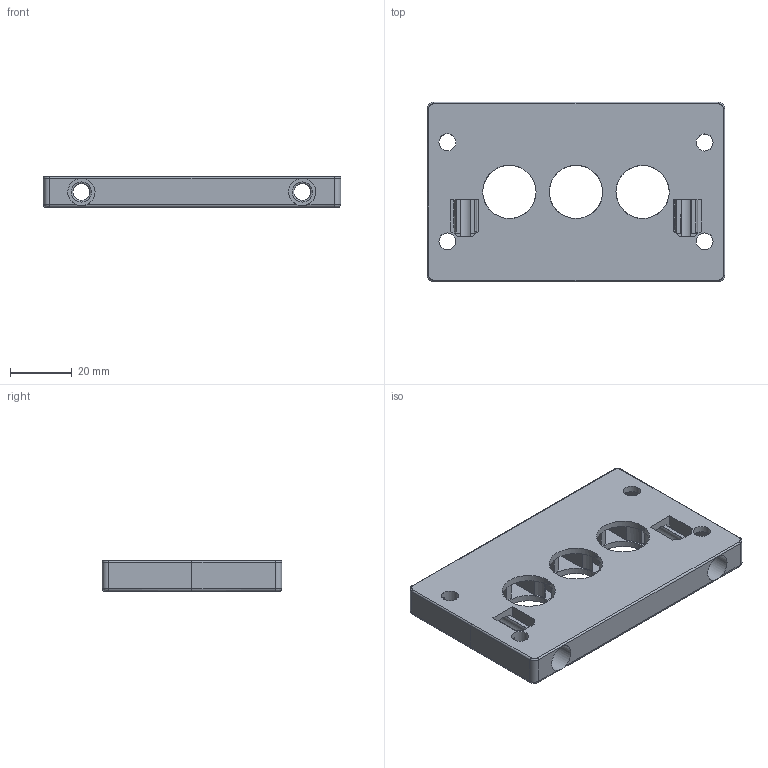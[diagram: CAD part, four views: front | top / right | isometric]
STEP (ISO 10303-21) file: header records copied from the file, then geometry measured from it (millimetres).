
FILE_DESCRIPTION (( 'STEP AP203' ), '1' );
FILE_NAME ('171011 KDL10-3.STEP', '2023-04-14T04:56:04', ( '' ), ( '' ), 'SwSTEP 2.0', 'SolidWorks 2016', '' );
FILE_SCHEMA (( 'CONFIG_CONTROL_DESIGN' ));
Length unit declared in the file: millimetre
Products named in the file (1): 171011 KDL10-3
Bounding box: 96 x 57.95 x 10 mm (x, y, z)
Volume: 29511.5 mm3; surface area: 27675.9 mm2
Topology: 1 solids, 1 shells, 477 faces, 1444 edges, 954 vertices
Faces by surface type: plane 331, cylinder 103, bspline 34, cone 9
Full cylindrical faces by diameter (mm): 5.5 x8, 8.8 x2
Entity records: 20134 total; most frequent: CARTESIAN_POINT 8329, ORIENTED_EDGE 2822, DIRECTION 1847, EDGE_CURVE 1411, VERTEX_POINT 943, VECTOR 765, LINE 765, AXIS2_PLACEMENT_3D 541
